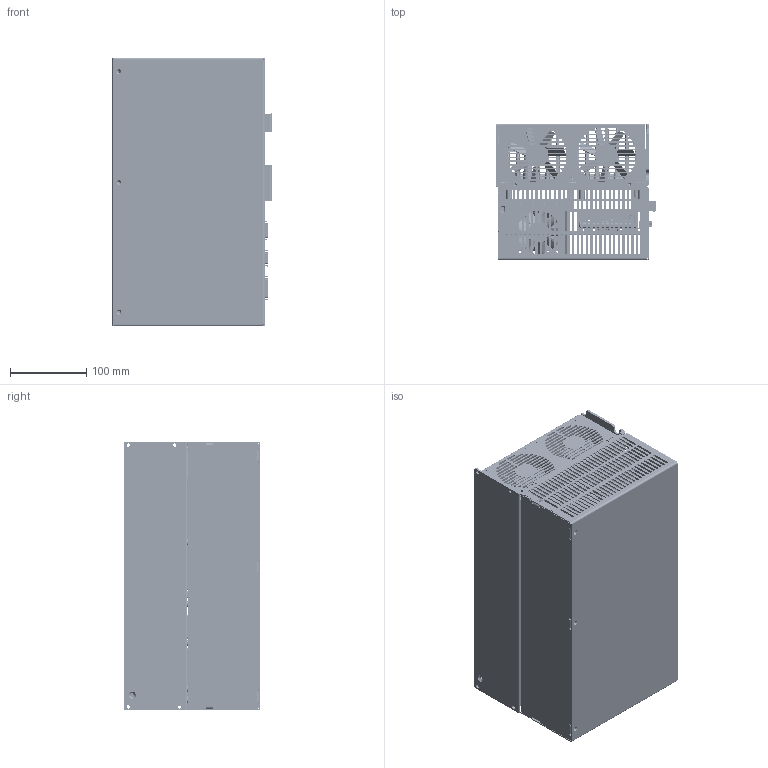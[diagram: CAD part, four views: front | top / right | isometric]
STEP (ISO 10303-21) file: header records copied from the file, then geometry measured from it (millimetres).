
FILE_DESCRIPTION((''),'2;1');
FILE_NAME('CD2S-040A-ASM_ASM','2024-09-28T',('wusong22'),(''),'CREO PARAMETRIC BY PTC INC, 2016260','CREO PARAMETRIC BY PTC INC, 2016260','');
FILE_SCHEMA(('AUTOMOTIVE_DESIGN { 1 0 10303 214 1 1 1 1 }'));
Products named in the file (74): HSKRCD2S030HV01-01; PCB-CDHD2S_V2_; 15EDGRM-3_5-04P-14-00A_H_; 15EDGRM-3_5-02P-14-00A_H_; 3PIN-UVW; 6PIN-POWER; 2S-045A-POWER-ASS_ASM; 12315000000014_CDHV_12A_MECR009; CONR00000040-40; CONTROL-BOARD; PCB-R9HCSC01-03_ASM; 43756_05-1-SOLID1; 43756_08-1-SOLID1; 43756_02-1-SOLID1; 43756_09-1-SOLID1; 43756_03-1-SOLID1; 43756_07-1-SOLID1; 43756_06-1-SOLID1; 43756_04-1-SOLID1; 43756_01-1-SOLID1; CONR0000RJ45-23_ASM; CONR00000036-12; CONR00000026-25; __2; __3; __1; ______1_ASM; ____; ___--_3_5_; _; ______; MB24________; _____; KAN0241H-0350H_________ASM; CONR00000020-16; 11_2; PRT0001_1_11; P1_1_1_1_2; TERMINAL_ASM_1_ASM_1_ASM_1_ASM__ASM; H_1_1_1_5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
Assembly tree (79 placements, depth 10):
  CD2S-040A-ASM_ASM
    HSKRCD2S030HV01-01
    2S-045A-POWER-ASS_ASM
      PCB-CDHD2S_V2_
      15EDGRM-3_5-04P-14-00A_H_  x2
      15EDGRM-3_5-02P-14-00A_H_
      3PIN-UVW
      6PIN-POWER
    12315000000014_CDHV_12A_MECR009
    PRDR9HCSAF1Z-CONTROL_ASM
      PRDR9HCSAF1Z-CONTROL_1_ASM
        CONR00000040-40
        PCB-R9HCSC01-03_ASM
          CONTROL-BOARD
        CONR0000RJ45-23_ASM  x2
          43756_05-1-SOLID1
          43756_08-1-SOLID1
          43756_02-1-SOLID1
          43756_09-1-SOLID1
          43756_03-1-SOLID1
          43756_07-1-SOLID1
          43756_06-1-SOLID1
          43756_04-1-SOLID1
          43756_01-1-SOLID1
        CONR00000036-12
        CONR00000026-25
        KAN0241H-0350H_________ASM
          ______1_ASM
            __2
            __3
            __1
          ____
          ___--_3_5_
          _
          ______
          MB24________
          _____
        CONR00000020-16
        MINI_USB_B_F_ASM_ASM_21_ASM_ASM
          11_2  x2
          MINI_USB_B_F_ASM_2_ASM_1_ASM_ASM
            PRT0001_1_11
            MINI_USB_B_F__ASM_ASM_1_ASM_1_A_ASM
              MINI_USB_B_F__ASM_2_ASM_1_ASM_1_ASM
                MINI-B_5P_F_SMT_3_95H-110801_AS_ASM
                  TERMINAL_ASM_1_ASM_1_ASM_1_ASM__ASM
                    P1_1_1_1_2  x3
                  H_1_1_1_5
        DISPLAY-PCBA_ASM
          DISPLAY-PCBA_1_ASM
            ROTERY_SW__GRAYHILL_94HAB10RA_1  x2
            CD2S-LED-PCB
            LED_DIGIT__DISPLAY_-_NINGBO-F_1
      CONR00000004-76
      CONR00000010-65_ASM
        CONR00000010-65_1_ASM
          IMPORTED1
          IMPORTED6
          IMPORTED5
          IMPORTED11
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Bounding box: 209.3 x 179.3 x 353.06 mm (x, y, z)
Volume: 3446047.4 mm3; surface area: 1768638.3 mm2
Topology: 72 solids, 149 shells, 19947 faces, 55863 edges, 35643 vertices
Faces by surface type: plane 11797, cylinder 4662, bspline 2195, cone 690, sphere 310, extrusion 186, torus 105, revolution 2
Entity records: 844501 total; most frequent: CARTESIAN_POINT 267101, ORIENTED_EDGE 101024, DIRECTION 85927, EDGE_CURVE 50512, VECTOR 34029, LINE 33843, VERTEX_POINT 32381, AXIS2_PLACEMENT_3D 25948
